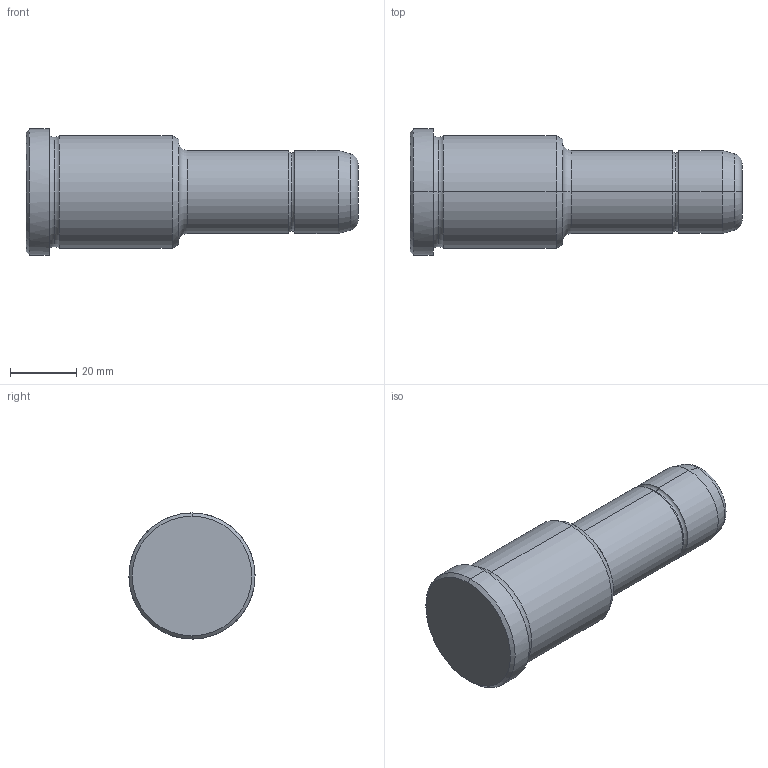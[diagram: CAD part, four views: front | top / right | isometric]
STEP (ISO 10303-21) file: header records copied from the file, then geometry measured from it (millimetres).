
FILE_DESCRIPTION(('CATIA V5 STEP Exchange'),'2;1');
FILE_NAME('C:\Users\Utente\Desktop\IO LAVORO\3D X SITO CF\X SITO\PLASTICA\351\351-25X46X100.stp','2021-08-28T09:14:52+00:00',('none'),('none'),'CATIA Version 5 Release 20 GA (IN-10)','CATIA V5 STEP AP203','none');
FILE_SCHEMA(('CONFIG_CONTROL_DESIGN'));
Length unit declared in the file: millimetre
Products named in the file (1): 351-25X46X100
Bounding box: 100 x 38 x 38 mm (x, y, z)
Volume: 69157 mm3; surface area: 11149.6 mm2
Topology: 1 solids, 1 shells, 30 faces, 86 edges, 60 vertices
Faces by surface type: torus 12, cylinder 8, cone 6, plane 4
Entity records: 1112 total; most frequent: CARTESIAN_POINT 289, ORIENTED_EDGE 172, DIRECTION 138, AXIS2_PLACEMENT_3D 95, EDGE_CURVE 86, CIRCLE 64, VERTEX_POINT 60, EDGE_LOOP 32
